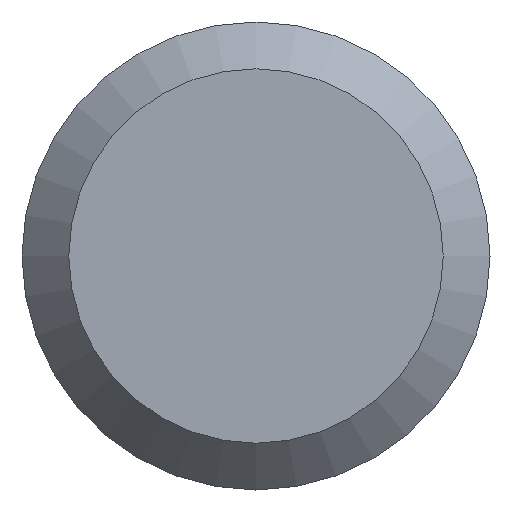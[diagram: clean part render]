
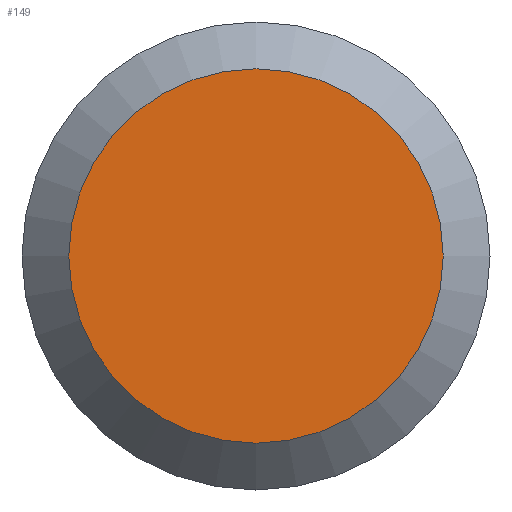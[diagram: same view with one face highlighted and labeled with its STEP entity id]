
A CAD part, left-side view. The second image highlights one B-rep face of the part: STEP entity #149.
In plain terms, the highlighted planar face has unit normal (-1, 0, 0).
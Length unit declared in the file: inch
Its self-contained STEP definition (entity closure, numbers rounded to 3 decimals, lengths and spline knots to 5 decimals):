
#7 = ORIENTED_EDGE ( 'NONE', *, *, #146, .T. ) ;
#31 = EDGE_LOOP ( 'NONE', ( #7 ) ) ;
#34 = CIRCLE ( 'NONE', #127, 0.0884 ) ;
#67 = CARTESIAN_POINT ( 'NONE',  ( 0., 0., -0.0884 ) ) ;
#87 = DIRECTION ( 'NONE',  ( 1., 0., 0. ) ) ;
#127 = AXIS2_PLACEMENT_3D ( 'NONE', #233, #235, #240 ) ;
#146 = EDGE_CURVE ( 'NONE', #247, #247, #34, .T. ) ;
#149 = ADVANCED_FACE ( 'NONE', ( #181 ), #160, .F. ) ;
#160 = PLANE ( 'NONE',  #248 ) ;
#161 = CARTESIAN_POINT ( 'NONE',  ( 0., 0.1105, 0. ) ) ;
#181 = FACE_OUTER_BOUND ( 'NONE', #31, .T. ) ;
#233 = CARTESIAN_POINT ( 'NONE',  ( 0., 0., 0. ) ) ;
#235 = DIRECTION ( 'NONE',  ( -1., 0., 0. ) ) ;
#240 = DIRECTION ( 'NONE',  ( 0., 0., -1. ) ) ;
#241 = DIRECTION ( 'NONE',  ( 0., 0., -1. ) ) ;
#247 = VERTEX_POINT ( 'NONE', #67 ) ;
#248 = AXIS2_PLACEMENT_3D ( 'NONE', #161, #87, #241 ) ;
